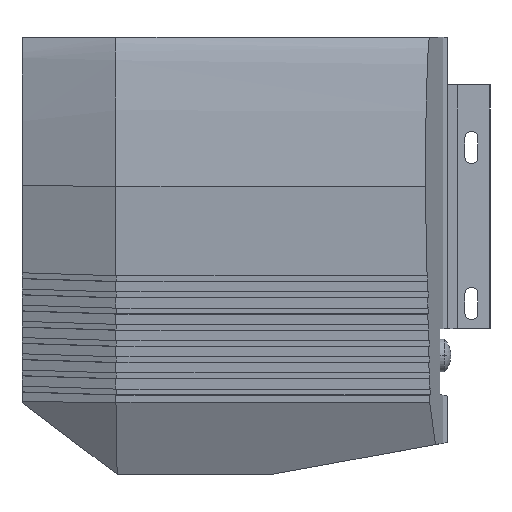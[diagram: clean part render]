
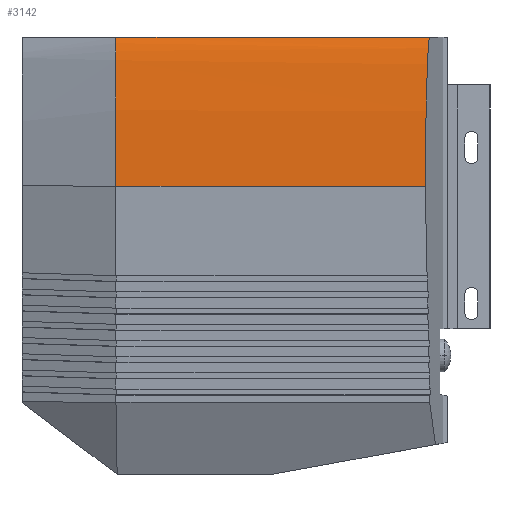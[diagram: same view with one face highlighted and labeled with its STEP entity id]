
A CAD part, left-side view. The second image highlights one B-rep face of the part: STEP entity #3142.
In plain terms, the highlighted free-form (B-spline) face has degree [3, 1] with [8, 2] control points.
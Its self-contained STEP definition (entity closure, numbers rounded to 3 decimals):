
#29 = B_SPLINE_SURFACE_WITH_KNOTS ( 'NONE', 3, 1, ( 
 ( #688, #683 ),
 ( #690, #691 ),
 ( #692, #693 ),
 ( #694, #695 ),
 ( #696, #697 ),
 ( #698, #699 ),
 ( #700, #701 ),
 ( #702, #703 ) ),
 .UNSPECIFIED., .F., .F., .F.,
 ( 4, 1, 1, 1, 1, 4 ),
 ( 2, 2 ),
 ( 0., 0.441, 0.749, 0.849, 0.921, 1. ),
 ( 0., 1. ),
 .UNSPECIFIED. ) ;
#165 = ORIENTED_EDGE ( 'NONE', *, *, #1707, .F. ) ;
#166 = ORIENTED_EDGE ( 'NONE', *, *, #1706, .F. ) ;
#167 = ORIENTED_EDGE ( 'NONE', *, *, #1723, .F. ) ;
#168 = ORIENTED_EDGE ( 'NONE', *, *, #1705, .F. ) ;
#341 = CARTESIAN_POINT ( 'NONE',  ( -32.21, 71.085, -35.951 ) ) ;
#683 = CARTESIAN_POINT ( 'NONE',  ( -32.21, -25.913, -35.951 ) ) ;
#687 = FACE_OUTER_BOUND ( 'NONE', #2861, .T. ) ;
#688 = CARTESIAN_POINT ( 'NONE',  ( -32.21, 71.085, -35.951 ) ) ;
#690 = CARTESIAN_POINT ( 'NONE',  ( -32.061, 71.085, -29.148 ) ) ;
#691 = CARTESIAN_POINT ( 'NONE',  ( -32.061, -25.913, -29.148 ) ) ;
#692 = CARTESIAN_POINT ( 'NONE',  ( -31.645, 71.085, -17.591 ) ) ;
#693 = CARTESIAN_POINT ( 'NONE',  ( -31.645, -25.913, -17.591 ) ) ;
#694 = CARTESIAN_POINT ( 'NONE',  ( -30.615, 71.085, -4.504 ) ) ;
#695 = CARTESIAN_POINT ( 'NONE',  ( -30.615, -25.913, -4.504 ) ) ;
#696 = CARTESIAN_POINT ( 'NONE',  ( -29.526, 71.085, 2.84 ) ) ;
#697 = CARTESIAN_POINT ( 'NONE',  ( -29.526, -25.913, 2.84 ) ) ;
#698 = CARTESIAN_POINT ( 'NONE',  ( -28.741, 71.085, 6.642 ) ) ;
#699 = CARTESIAN_POINT ( 'NONE',  ( -28.741, -25.913, 6.642 ) ) ;
#700 = CARTESIAN_POINT ( 'NONE',  ( -28.07, 71.085, 8.881 ) ) ;
#701 = CARTESIAN_POINT ( 'NONE',  ( -28.07, -25.913, 8.881 ) ) ;
#702 = CARTESIAN_POINT ( 'NONE',  ( -27.578, 71.085, 10. ) ) ;
#703 = CARTESIAN_POINT ( 'NONE',  ( -27.578, -25.913, 10. ) ) ;
#1015 = CARTESIAN_POINT ( 'NONE',  ( -27.578, 71.085, 10. ) ) ;
#1035 = CARTESIAN_POINT ( 'NONE',  ( -27.578, -25.334, 10. ) ) ;
#1037 = CARTESIAN_POINT ( 'NONE',  ( -32.21, -24.095, -35.951 ) ) ;
#1057 = CARTESIAN_POINT ( 'NONE',  ( -28.27, -25.149, 8.191 ) ) ;
#1066 = CARTESIAN_POINT ( 'NONE',  ( -27.97, -25.229, 9.107 ) ) ;
#1074 = CARTESIAN_POINT ( 'NONE',  ( -32.13, 71.085, -32.399 ) ) ;
#1075 = CARTESIAN_POINT ( 'NONE',  ( -27.578, -25.334, 10. ) ) ;
#1076 = CARTESIAN_POINT ( 'NONE',  ( -32.027, 71.085, -28.781 ) ) ;
#1077 = CARTESIAN_POINT ( 'NONE',  ( -28.778, -25.013, 6.337 ) ) ;
#1078 = CARTESIAN_POINT ( 'NONE',  ( -28.992, -24.956, 5.401 ) ) ;
#1079 = CARTESIAN_POINT ( 'NONE',  ( -29.564, -24.802, 2.573 ) ) ;
#1080 = CARTESIAN_POINT ( 'NONE',  ( -29.856, -24.724, 0.665 ) ) ;
#1081 = CARTESIAN_POINT ( 'NONE',  ( -30.612, -24.522, -5.082 ) ) ;
#1082 = CARTESIAN_POINT ( 'NONE',  ( -30.954, -24.43, -8.93 ) ) ;
#1083 = CARTESIAN_POINT ( 'NONE',  ( -31.355, -24.323, -14.714 ) ) ;
#1084 = CARTESIAN_POINT ( 'NONE',  ( -31.471, -24.292, -16.643 ) ) ;
#1085 = CARTESIAN_POINT ( 'NONE',  ( -31.679, -24.237, -20.502 ) ) ;
#1086 = CARTESIAN_POINT ( 'NONE',  ( -31.952, -24.164, -26.292 ) ) ;
#1087 = CARTESIAN_POINT ( 'NONE',  ( -32.125, -24.118, -32.087 ) ) ;
#1088 = CARTESIAN_POINT ( 'NONE',  ( -32.21, -24.095, -35.951 ) ) ;
#1090 = CARTESIAN_POINT ( 'NONE',  ( -32.21, 71.085, -35.951 ) ) ;
#1091 = LINE ( 'NONE', #1123, #2597 ) ;
#1092 = CARTESIAN_POINT ( 'NONE',  ( -31.795, 71.085, -22.979 ) ) ;
#1093 = CARTESIAN_POINT ( 'NONE',  ( -31.693, 71.085, -20.774 ) ) ;
#1094 = CARTESIAN_POINT ( 'NONE',  ( -31.455, 71.085, -16.355 ) ) ;
#1095 = CARTESIAN_POINT ( 'NONE',  ( -31.321, 71.085, -14.149 ) ) ;
#1096 = CARTESIAN_POINT ( 'NONE',  ( -30.997, 71.085, -9.662 ) ) ;
#1097 = CARTESIAN_POINT ( 'NONE',  ( -30.806, 71.085, -7.398 ) ) ;
#1098 = CARTESIAN_POINT ( 'NONE',  ( -30.44, 71.085, -3.944 ) ) ;
#1099 = CARTESIAN_POINT ( 'NONE',  ( -30.306, 71.085, -2.788 ) ) ;
#1100 = CARTESIAN_POINT ( 'NONE',  ( -30.007, 71.085, -0.465 ) ) ;
#1101 = CARTESIAN_POINT ( 'NONE',  ( -29.841, 71.085, 0.726 ) ) ;
#1102 = CARTESIAN_POINT ( 'NONE',  ( -29.535, 71.085, 2.584 ) ) ;
#1103 = CARTESIAN_POINT ( 'NONE',  ( -29.425, 71.085, 3.209 ) ) ;
#1104 = CARTESIAN_POINT ( 'NONE',  ( -29.176, 71.085, 4.508 ) ) ;
#1105 = CARTESIAN_POINT ( 'NONE',  ( -29.039, 71.085, 5.18 ) ) ;
#1106 = CARTESIAN_POINT ( 'NONE',  ( -28.786, 71.085, 6.249 ) ) ;
#1107 = CARTESIAN_POINT ( 'NONE',  ( -28.702, 71.085, 6.597 ) ) ;
#1108 = CARTESIAN_POINT ( 'NONE',  ( -28.543, 71.085, 7.195 ) ) ;
#1109 = CARTESIAN_POINT ( 'NONE',  ( -28.486, 71.085, 7.405 ) ) ;
#1110 = CARTESIAN_POINT ( 'NONE',  ( -28.354, 71.085, 7.862 ) ) ;
#1111 = CARTESIAN_POINT ( 'NONE',  ( -28.28, 71.085, 8.107 ) ) ;
#1112 = CARTESIAN_POINT ( 'NONE',  ( -28.144, 71.085, 8.525 ) ) ;
#1113 = CARTESIAN_POINT ( 'NONE',  ( -28.094, 71.085, 8.672 ) ) ;
#1114 = CARTESIAN_POINT ( 'NONE',  ( -27.981, 71.085, 8.992 ) ) ;
#1115 = CARTESIAN_POINT ( 'NONE',  ( -27.915, 71.085, 9.171 ) ) ;
#1116 = CARTESIAN_POINT ( 'NONE',  ( -27.806, 71.085, 9.454 ) ) ;
#1117 = CARTESIAN_POINT ( 'NONE',  ( -27.76, 71.085, 9.568 ) ) ;
#1118 = CARTESIAN_POINT ( 'NONE',  ( -27.695, 71.085, 9.727 ) ) ;
#1119 = CARTESIAN_POINT ( 'NONE',  ( -27.666, 71.085, 9.795 ) ) ;
#1120 = CARTESIAN_POINT ( 'NONE',  ( -27.622, 71.085, 9.899 ) ) ;
#1121 = CARTESIAN_POINT ( 'NONE',  ( -27.591, 71.085, 9.971 ) ) ;
#1122 = CARTESIAN_POINT ( 'NONE',  ( -27.578, 71.085, 10. ) ) ;
#1123 = CARTESIAN_POINT ( 'NONE',  ( -27.578, 146.189, 10. ) ) ;
#1126 = DIRECTION ( 'NONE',  ( 0., -1., 0. ) ) ;
#1161 = LINE ( 'NONE', #1171, #1739 ) ;
#1171 = CARTESIAN_POINT ( 'NONE',  ( -32.21, 99.505, -35.951 ) ) ;
#1172 = DIRECTION ( 'NONE',  ( 0., 1., 0. ) ) ;
#1705 = EDGE_CURVE ( 'NONE', #3471, #3473, #3379, .T. ) ;
#1706 = EDGE_CURVE ( 'NONE', #3489, #3451, #3382, .T. ) ;
#1707 = EDGE_CURVE ( 'NONE', #3451, #3471, #1091, .T. ) ;
#1723 = EDGE_CURVE ( 'NONE', #3473, #3489, #1161, .T. ) ;
#1739 = VECTOR ( 'NONE', #1172, 1000. ) ;
#2597 = VECTOR ( 'NONE', #1126, 1000. ) ;
#2861 = EDGE_LOOP ( 'NONE', ( #165, #166, #167, #168 ) ) ;
#3142 = ADVANCED_FACE ( 'NONE', ( #687 ), #29, .T. ) ;
#3379 = B_SPLINE_CURVE_WITH_KNOTS ( 'NONE', 3,
 ( #1075, #1066, #1057, #1077, #1078, #1079, #1080, #1081, #1082, #1083, #1084, #1085, #1086, #1087, #1088 ),
 .UNSPECIFIED., .F., .F.,
 ( 4, 2, 2, 2, 2, 2, 1, 4 ),
 ( 0., 0.003, 0.006, 0.012, 0.023, 0.029, 0.035, 0.046 ),
 .UNSPECIFIED. ) ;
#3382 = B_SPLINE_CURVE_WITH_KNOTS ( 'NONE', 3,
 ( #1090, #1074, #1076, #1092, #1093, #1094, #1095, #1096, #1097, #1098, #1099, #1100, #1101, #1102, #1103, #1104, #1105, #1106, #1107, #1108, #1109, #1110, #1111, #1112, #1113, #1114, #1115, #1116, #1117, #1118, #1119, #1120, #1121, #1122 ),
 .UNSPECIFIED., .F., .F.,
 ( 4, 2, 2, 2, 2, 2, 2, 2, 2, 2, 2, 2, 2, 2, 2, 2, 4 ),
 ( 0., 0.253, 0.407, 0.561, 0.716, 0.793, 0.87, 0.909, 0.947, 0.966, 0.976, 0.986, 0.991, 0.995, 0.998, 0.999, 1. ),
 .UNSPECIFIED. ) ;
#3451 = VERTEX_POINT ( 'NONE', #1015 ) ;
#3471 = VERTEX_POINT ( 'NONE', #1035 ) ;
#3473 = VERTEX_POINT ( 'NONE', #1037 ) ;
#3489 = VERTEX_POINT ( 'NONE', #341 ) ;
